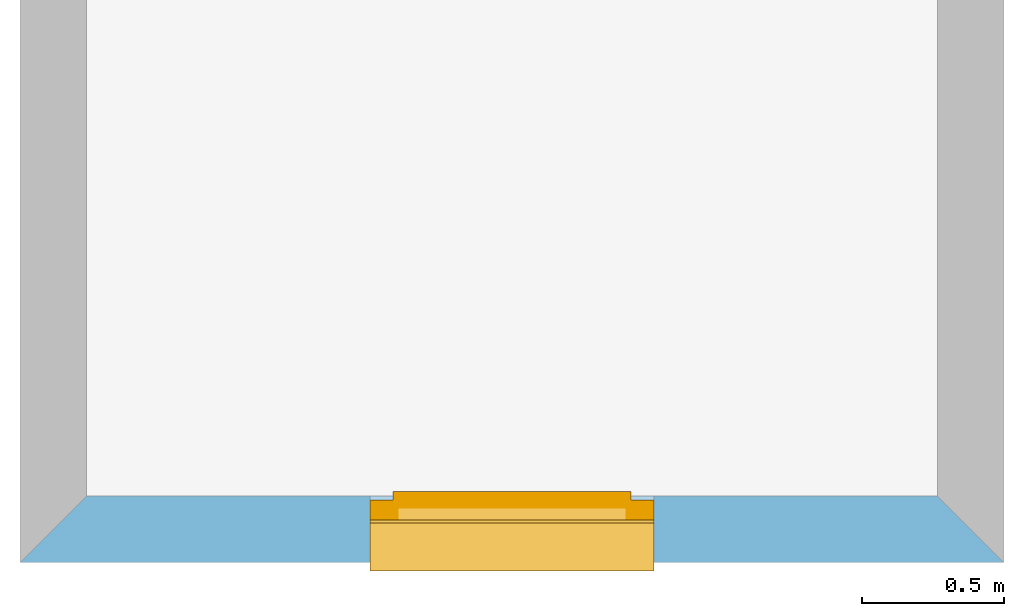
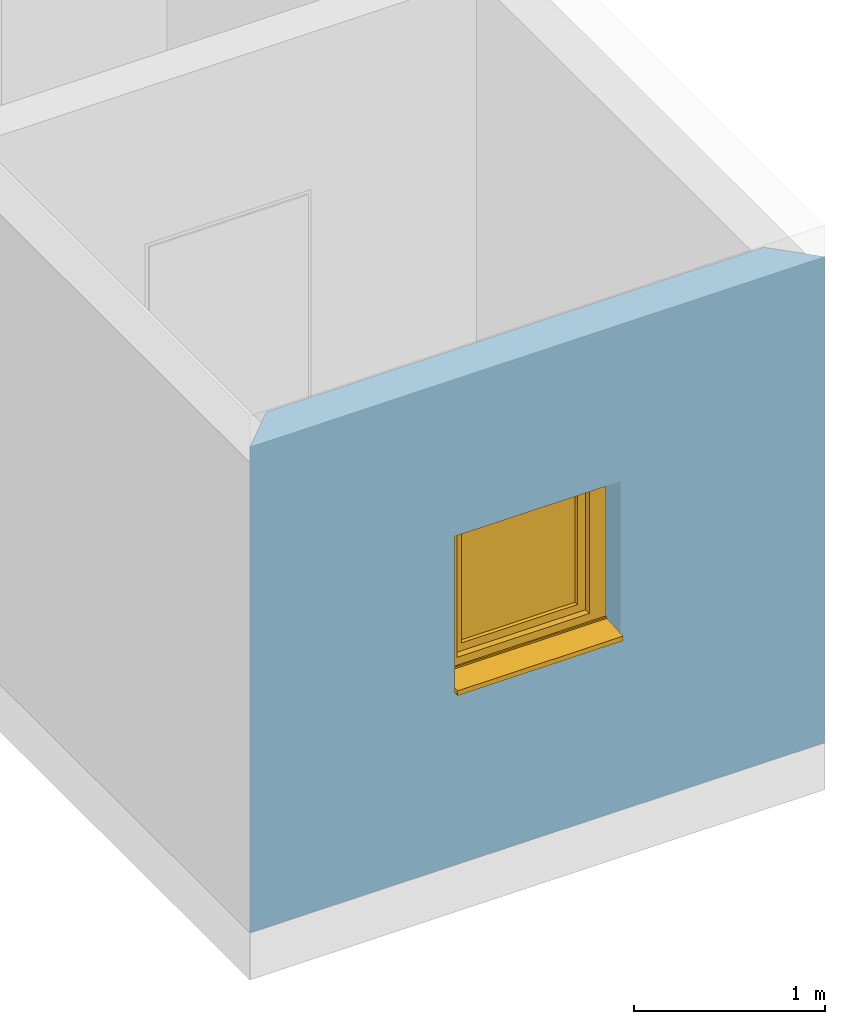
# One storey, part 4 of 4: 1 window, 1 opening, plus 1 element that does not belong to this part.
"""IFC2X3 building model written with IfcOpenShell, lengths in millimetres."""

from ifc_helpers import new_model, entity, si_unit, converted_unit, money_unit, direction, frame, origin_with_axes, origin_2d_with_axis, place, context, subcontext, project, spatial, polyline, rectangle, outline, extrude, faceted_brep, source, transform, mapped, material, layer, layer_set, layer_usage, type_object, element, fill, save


model = new_model("IFC2X3")

# Units and contexts
model_context = context("Model", 3, precision=1e-05, world=origin_with_axes(), true_north=direction((0.0, 1.0)))
body_context = subcontext(model_context, "Body", "Model", "MODEL_VIEW")
ifc_project = project(units=[si_unit("LENGTHUNIT", "METRE", prefix="MILLI"), si_unit("AREAUNIT", "SQUARE_METRE"), si_unit("VOLUMEUNIT", "CUBIC_METRE"), converted_unit("PLANEANGLEUNIT", "DEGREE", entity("IfcPlaneAngleMeasure", 0.0174532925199), si_unit("PLANEANGLEUNIT", "RADIAN"), dimensions=[0, 0, 0, 0, 0, 0, 0]), si_unit("SOLIDANGLEUNIT", "STERADIAN"), money_unit("CHF"), converted_unit("TIMEUNIT", "Year", entity("IfcTimeMeasure", 31556926.0), si_unit("TIMEUNIT", "SECOND"), dimensions=[0, 0, 0, 0, 0, 0, 0]), si_unit("MASSUNIT", "GRAM"), si_unit("THERMODYNAMICTEMPERATUREUNIT", "DEGREE_CELSIUS"), si_unit("LUMINOUSINTENSITYUNIT", "LUMEN")], contexts=[model_context])

# Site, building, storey
site_placement = place(None, origin_with_axes())
site = spatial("IfcSite", under=ifc_project, at=site_placement, Name="Gel\x8ande", CompositionType="ELEMENT")
building_placement = place(site_placement, origin_with_axes())
building = spatial("IfcBuilding", under=site, at=building_placement, Name="Geb\x8aude", CompositionType="ELEMENT")
storey_placement = place(building_placement, frame((0.0, 0.0, 3100.0), z_axis=(0.0, 0.0, 1.0), x_axis=(1.0, 0.0, 0.0)))
storey = spatial("IfcBuildingStorey", under=building, at=storey_placement, Name="TowZone", CompositionType="ELEMENT", Elevation=3100.0)

# Wall, opening, window
ifc_material_1 = material(Name="Verputz, Innen")
ifc_layer_1 = layer(ifc_material_1, 15.0, ventilated="UNKNOWN")
ifc_material_2 = material(Name="Beton, Stahlbeton")
ifc_layer_2 = layer(ifc_material_2, 200.0, ventilated="UNKNOWN")
ifc_material_3 = material(Name="Verputz, Aussen")
ifc_layer_3 = layer(ifc_material_3, 20.0, ventilated="UNKNOWN")
ifc_layer_set = layer_set([ifc_layer_1, ifc_layer_2, ifc_layer_3], Name="OneZone")
ifc_layer_usage = layer_usage(ifc_layer_set, "AXIS2", "POSITIVE", -235.0)
wall_type = type_object("IfcWallType", Name="OneZone 235", PredefinedType="NOTDEFINED")
wall_placement = place(storey_placement, frame((5841.86610583, -3235.0, 0.0), z_axis=(0.0, 0.0, 1.0), x_axis=(-1.0, 0.0, 0.0)))
wall = element("IfcWallStandardCase", 1, at=wall_placement, inside=storey, type_object=wall_type, material=ifc_layer_usage, Name="Wand-001", context=body_context, shape_type="SweptSolid", body=[
    extrude(outline(polyline([(0.0, -235.0), (3000.0, -235.0), (3235.0, 0.0), (-235.0, 0.0), (0.0, -235.0)])), origin_with_axes(), (0.0, 0.0, 1.0), 3100.0),
])
opening_placement = place(wall_placement, frame((1500.0, 0.0, 1150.0), z_axis=(0.0, 0.0, 1.0), x_axis=(1.0, 0.0, 0.0)))
opening = element("IfcOpeningElement", 2, at=opening_placement, cuts=wall, Name="Fenster-001", context=body_context, shape_type="SweptSolid", body=[
    extrude(rectangle(XDim=1000.0, YDim=1000.0, at=origin_2d_with_axis()), frame((0.0, 235.0, 450.0), z_axis=(0.0, -1.0, 0.0), x_axis=(-1.0, 0.0, 0.0)), (0.0, 0.0, 1.0), 385.0),
    extrude(rectangle(XDim=1000.0, YDim=1000.0, at=origin_2d_with_axis()), frame((0.0, -470.0, 450.0), z_axis=(0.0, 1.0, 0.0), x_axis=(-1.0, 0.0, 0.0)), (0.0, 0.0, 1.0), 320.0),
])
window_style = type_object("IfcWindowStyle", Name="1-Fl\x9fgelfenster 18", ConstructionType="NOTDEFINED", OperationType="SINGLE_PANEL", ParameterTakesPrecedence=False, Sizeable=False)
shared_shape = source(origin_with_axes(), body_context, "Body", "Brep", [
    faceted_brep([(-500.0, -70.0, -50.0), (-500.0, -70.0, 0.0), (500.0, -70.0, 0.0), (500.0, -70.0, -50.0), (-500.0, -233.0, -50.0), (-500.0, -233.0, -43.0), (-500.0, -240.0, -43.0), (-500.0, -240.0, -50.0), (-500.0, -250.0, -50.0), (-500.0, -250.0, -20.0), (-500.0, -80.0, -10.0), (-500.0, -80.0, 0.0), (500.0, -80.0, 0.0), (500.0, -80.0, -10.0), (500.0, -250.0, -20.0), (500.0, -250.0, -50.0), (500.0, -240.0, -50.0), (500.0, -240.0, -43.0), (500.0, -233.0, -43.0), (500.0, -233.0, -50.0)], [[[0, 1, 2, 3]], [[0, 4, 5, 6, 7, 8, 9, 10, 11, 1]], [[1, 11, 12, 2]], [[3, 2, 12, 13, 14, 15, 16, 17, 18, 19]], [[4, 0, 3, 19]], [[5, 4, 19, 18]], [[6, 5, 18, 17]], [[7, 6, 17, 16]], [[8, 7, 16, 15]], [[9, 8, 15, 14]], [[10, 9, 14, 13]], [[11, 10, 13, 12]]]),
    faceted_brep([(-500.0, -70.0, -50.0), (-500.0, 0.0, -50.0), (-400.0, 0.0, 50.0), (-400.0, -70.0, 50.0), (-500.0, -70.0, 950.0), (-500.0, 0.0, 950.0), (-400.0, 0.0, 850.0), (-400.0, -70.0, 850.0)], [[[0, 1, 2, 3]], [[4, 5, 1, 0]], [[1, 5, 6, 2]], [[3, 2, 6, 7]], [[0, 3, 7, 4]], [[7, 6, 5, 4]]]),
    faceted_brep([(500.0, -70.0, -50.0), (500.0, 0.0, -50.0), (500.0, 0.0, 950.0), (500.0, -70.0, 950.0), (400.0, -70.0, 50.0), (400.0, 0.0, 50.0), (400.0, 0.0, 850.0), (400.0, -70.0, 850.0)], [[[0, 1, 2, 3]], [[4, 5, 1, 0]], [[1, 5, 6, 2]], [[3, 2, 6, 7]], [[0, 3, 7, 4]], [[7, 6, 5, 4]]]),
    faceted_brep([(-500.0, -70.0, -50.0), (-500.0, 0.0, -50.0), (500.0, 0.0, -50.0), (500.0, -70.0, -50.0), (-400.0, -70.0, 50.0), (-400.0, 0.0, 50.0), (0.0, 0.0, 50.0), (400.0, 0.0, 50.0), (400.0, -70.0, 50.0), (0.0, -70.0, 50.0)], [[[0, 1, 2, 3]], [[4, 5, 1, 0]], [[1, 5, 6, 7, 2]], [[3, 2, 7, 8]], [[0, 3, 8, 9, 4]], [[9, 6, 5, 4]], [[8, 7, 6, 9]]]),
    faceted_brep([(-500.0, -70.0, 950.0), (-500.0, 0.0, 950.0), (-400.0, 0.0, 850.0), (-400.0, -70.0, 850.0), (500.0, -70.0, 950.0), (500.0, 0.0, 950.0), (400.0, 0.0, 850.0), (0.0, 0.0, 850.0), (0.0, -70.0, 850.0), (400.0, -70.0, 850.0)], [[[0, 1, 2, 3]], [[4, 5, 1, 0]], [[1, 5, 6, 7, 2]], [[3, 2, 7, 8]], [[0, 3, 8, 9, 4]], [[9, 6, 5, 4]], [[8, 7, 6, 9]]]),
    faceted_brep([(-420.0, 0.0, 30.0), (-420.0, 30.0, 30.0), (-350.0, 30.0, 100.0), (-350.0, 0.0, 100.0), (-420.0, 0.0, 870.0), (-420.0, 30.0, 870.0), (-350.0, 30.0, 800.0), (-350.0, 0.0, 800.0)], [[[0, 1, 2, 3]], [[4, 5, 1, 0]], [[1, 5, 6, 2]], [[3, 2, 6, 7]], [[0, 3, 7, 4]], [[7, 6, 5, 4]]]),
    faceted_brep([(420.0, 0.0, 30.0), (350.0, 0.0, 100.0), (350.0, 30.0, 100.0), (420.0, 30.0, 30.0), (420.0, 0.0, 870.0), (350.0, 0.0, 800.0), (350.0, 30.0, 800.0), (420.0, 30.0, 870.0)], [[[0, 1, 2, 3]], [[0, 4, 5, 1]], [[1, 5, 6, 2]], [[3, 2, 6, 7]], [[4, 0, 3, 7]], [[5, 4, 7, 6]]]),
    faceted_brep([(-420.0, 0.0, 30.0), (-420.0, 30.0, 30.0), (420.0, 30.0, 30.0), (420.0, 0.0, 30.0), (-350.0, 0.0, 100.0), (-350.0, 30.0, 100.0), (350.0, 30.0, 100.0), (350.0, 0.0, 100.0)], [[[0, 1, 2, 3]], [[4, 5, 1, 0]], [[1, 5, 6, 2]], [[3, 2, 6, 7]], [[0, 3, 7, 4]], [[7, 6, 5, 4]]]),
    faceted_brep([(-420.0, 0.0, 870.0), (420.0, 0.0, 870.0), (420.0, 30.0, 870.0), (-420.0, 30.0, 870.0), (-350.0, 0.0, 800.0), (350.0, 0.0, 800.0), (350.0, 30.0, 800.0), (-350.0, 30.0, 800.0)], [[[0, 1, 2, 3]], [[0, 4, 5, 1]], [[1, 5, 6, 2]], [[3, 2, 6, 7]], [[4, 0, 3, 7]], [[5, 4, 7, 6]]]),
    faceted_brep([(-400.0, -30.0, 50.0), (-400.0, 0.0, 50.0), (-350.0, 0.0, 100.0), (-350.0, -30.0, 100.0), (-400.0, -30.0, 850.0), (-400.0, 0.0, 850.0), (-350.0, 0.0, 800.0), (-350.0, -30.0, 800.0)], [[[0, 1, 2, 3]], [[4, 5, 1, 0]], [[1, 5, 6, 2]], [[3, 2, 6, 7]], [[0, 3, 7, 4]], [[7, 6, 5, 4]]]),
    faceted_brep([(400.0, -30.0, 50.0), (350.0, -30.0, 100.0), (350.0, 0.0, 100.0), (400.0, 0.0, 50.0), (400.0, -30.0, 850.0), (350.0, -30.0, 800.0), (350.0, 0.0, 800.0), (400.0, 0.0, 850.0)], [[[0, 1, 2, 3]], [[0, 4, 5, 1]], [[1, 5, 6, 2]], [[3, 2, 6, 7]], [[4, 0, 3, 7]], [[5, 4, 7, 6]]]),
    faceted_brep([(-400.0, -30.0, 50.0), (-400.0, 0.0, 50.0), (400.0, 0.0, 50.0), (400.0, -30.0, 50.0), (-350.0, -30.0, 100.0), (-350.0, 0.0, 100.0), (350.0, 0.0, 100.0), (350.0, -30.0, 100.0)], [[[0, 1, 2, 3]], [[4, 5, 1, 0]], [[1, 5, 6, 2]], [[3, 2, 6, 7]], [[0, 3, 7, 4]], [[7, 6, 5, 4]]]),
    faceted_brep([(-400.0, -30.0, 850.0), (400.0, -30.0, 850.0), (400.0, 0.0, 850.0), (-400.0, 0.0, 850.0), (-350.0, -30.0, 800.0), (350.0, -30.0, 800.0), (350.0, 0.0, 800.0), (-350.0, 0.0, 800.0)], [[[0, 1, 2, 3]], [[0, 4, 5, 1]], [[1, 5, 6, 2]], [[3, 2, 6, 7]], [[4, 0, 3, 7]], [[5, 4, 7, 6]]]),
    faceted_brep([(-350.0, -5.0, 100.0), (-350.0, 5.0, 100.0), (350.0, 5.0, 100.0), (350.0, -5.0, 100.0), (-350.0, -5.0, 800.0), (-350.0, 5.0, 800.0), (350.0, 5.0, 800.0), (350.0, -5.0, 800.0)], [[[0, 1, 2, 3]], [[4, 5, 1, 0]], [[1, 5, 6, 2]], [[3, 2, 6, 7]], [[0, 3, 7, 4]], [[7, 6, 5, 4]]]),
])
window_placement = place(opening_placement, frame((500.0, 0.0, 0.0), z_axis=(0.0, 0.0, 1.0), x_axis=(-1.0, 0.0, 0.0)))
window = element("IfcWindow", 3, at=window_placement, inside=storey, type_object=window_style, Name="Fenster-001", OverallHeight=1000.0, OverallWidth=1000.0, context=body_context, shape_type="MappedRepresentation", body=[
    mapped(shared_shape, transform((500.0, 220.0, 0.0))),
])
fill(opening, window)

save(model, "model.ifc")
